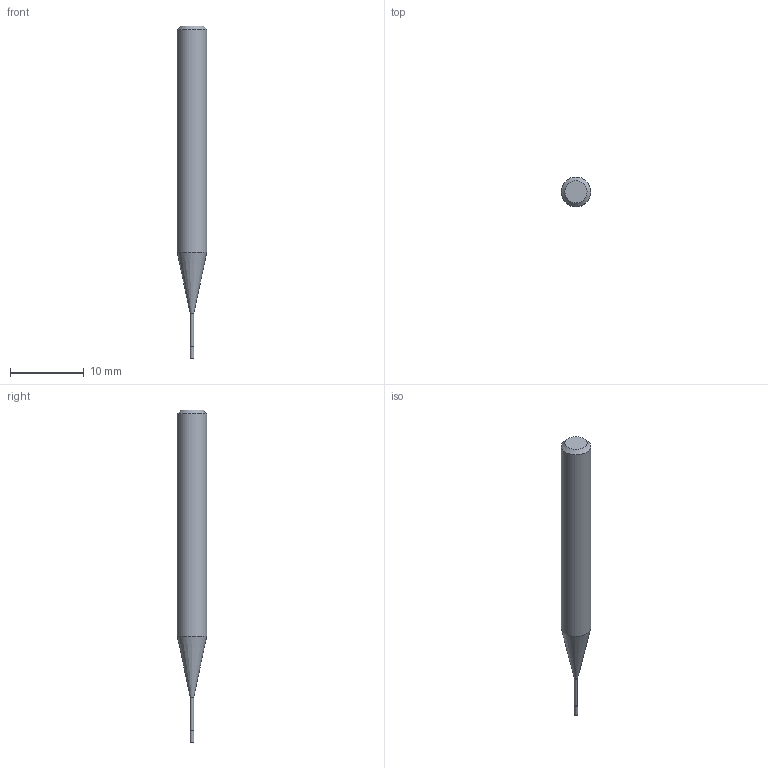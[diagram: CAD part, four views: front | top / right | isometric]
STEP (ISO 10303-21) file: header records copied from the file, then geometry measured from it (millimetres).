
FILE_DESCRIPTION((''),'2;1');
FILE_NAME('C:\Users\nsx150\Desktop\RSE230_20210427\01-00644-00506 RSE230 D0_5X1_5X6.step','2021-05-07T14:52:47',(''),(''),'STEP Write','Mastercam 2021 ... CNC Software, Inc.','');
FILE_SCHEMA(('AUTOMOTIVE_DESIGN'));
Length unit declared in the file: millimetre
Products named in the file (1): None
Bounding box: 4 x 4 x 45 mm (x, y, z)
Volume: 424.4 mm3; surface area: 463.1 mm2
Topology: 2 solids, 2 shells, 9 faces, 12 edges, 7 vertices
Faces by surface type: plane 4, cylinder 3, cone 2
Full cylindrical faces by diameter (mm): 0.46 x1, 0.5 x1, 4 x1
Entity records: 211 total; most frequent: DIRECTION 36, CARTESIAN_POINT 25, AXIS2_PLACEMENT_3D 18, ORIENTED_EDGE 14, EDGE_LOOP 14, STYLED_ITEM 12, ADVANCED_FACE 9, FACE_BOUND 8
